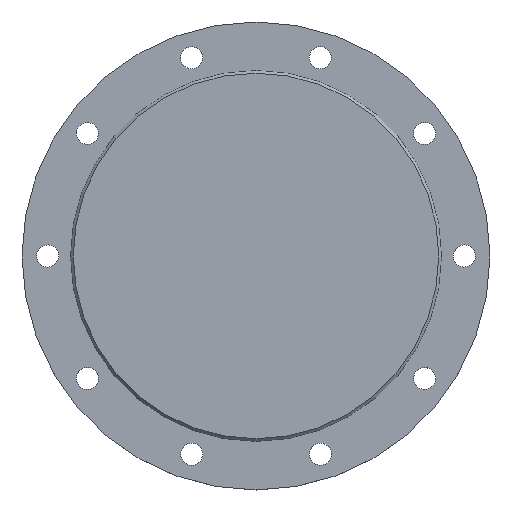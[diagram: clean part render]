
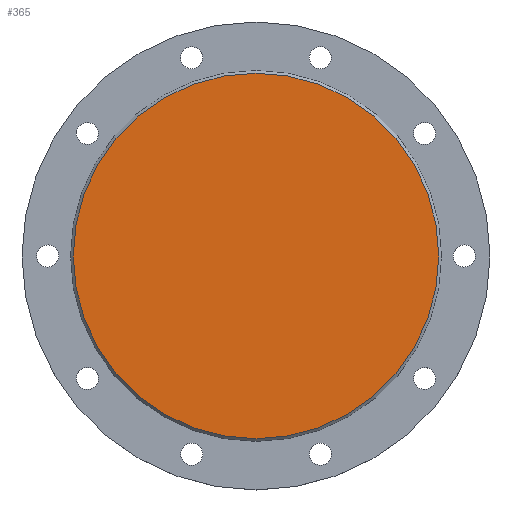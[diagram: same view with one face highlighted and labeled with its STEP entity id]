
A CAD part, top view. The second image highlights one B-rep face of the part: STEP entity #365.
In plain terms, the highlighted planar face has unit normal (0, 0, 1).
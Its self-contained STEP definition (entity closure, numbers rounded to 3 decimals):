
#38=PLANE('',#438);
#53=FACE_OUTER_BOUND('',#79,.T.);
#79=EDGE_LOOP('',(#317,#318));
#149=CIRCLE('',#433,207.);
#150=CIRCLE('',#434,207.);
#187=VERTEX_POINT('',#651);
#188=VERTEX_POINT('',#652);
#235=EDGE_CURVE('',#187,#188,#149,.T.);
#236=EDGE_CURVE('',#188,#187,#150,.T.);
#317=ORIENTED_EDGE('',*,*,#235,.T.);
#318=ORIENTED_EDGE('',*,*,#236,.T.);
#365=ADVANCED_FACE('',(#53),#38,.T.);
#433=AXIS2_PLACEMENT_3D('',#653,#544,#545);
#434=AXIS2_PLACEMENT_3D('',#654,#546,#547);
#438=AXIS2_PLACEMENT_3D('',#662,#556,#557);
#544=DIRECTION('center_axis',(0.,0.,1.));
#545=DIRECTION('ref_axis',(1.,0.,0.));
#546=DIRECTION('center_axis',(0.,0.,1.));
#547=DIRECTION('ref_axis',(1.,0.,0.));
#556=DIRECTION('center_axis',(0.,0.,1.));
#557=DIRECTION('ref_axis',(1.,0.,0.));
#651=CARTESIAN_POINT('',(207.,0.,0.));
#652=CARTESIAN_POINT('',(-207.,0.,0.));
#653=CARTESIAN_POINT('Origin',(0.,0.,0.));
#654=CARTESIAN_POINT('Origin',(0.,0.,0.));
#662=CARTESIAN_POINT('Origin',(0.,0.,0.));
